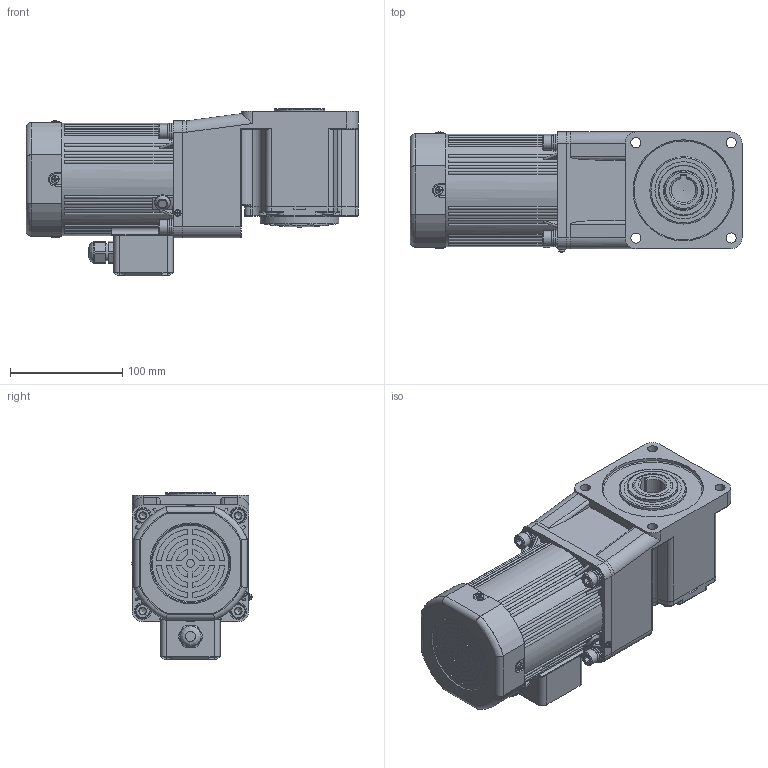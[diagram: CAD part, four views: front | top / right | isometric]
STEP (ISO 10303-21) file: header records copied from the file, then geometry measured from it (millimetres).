
FILE_DESCRIPTION(/* description */ (''),/* implementation_level */ '2;1');
FILE_NAME(/* name */ '100+直角中空-风叶-120-140W 新版常规接线盒.stp',/* time_stamp */ '2025-04-07T19:42:22+08:00',/* author */ (''),/* organization */ (''),/* preprocessor_version */ 'ST-DEVELOPER v18.102',/* originating_system */ 'SIEMENS PLM Software NX 2027',/* authorisation */ '');
FILE_SCHEMA (('AP203_CONFIGURATION_CONTROLLED_3D_DESIGN_OF_MECHANICAL_PARTS_AND_ASSEMBLIES_MIM_LF { 1 0 10303 403 2 1 2}'));
Products named in the file (1): 100+直角中空-风叶-120-140W 新版_
stp_objects
Bounding box: 295.5 x 106.83 x 149.5 mm (x, y, z)
Volume: 2846143.2 mm3; surface area: 410155.5 mm2
Topology: 26 solids, 26 shells, 1935 faces, 5022 edges, 3250 vertices
Faces by surface type: plane 838, cylinder 602, bspline 216, cone 130, torus 123, sphere 26
Full cylindrical faces by diameter (mm): 2.6 x2, 2.7 x1, 3 x17, 3.2 x2, 3.3 x2, 3.5 x6, 3.6 x4, 4 x4, 4.5 x4, 4.55 x2, 5.1 x2, 5.15 x2, 6 x10, 6.8 x12, 7 x2, 7.5 x2, 7.76 x4, 8.4 x4, 9 x14, 9.3 x1, 9.5 x4, 12 x1, 13 x4, 14 x8, 15 x7, 15.5 x2, 16 x1, 18 x1, 19 x3, 21 x1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
Entity records: 59653 total; most frequent: CARTESIAN_POINT 15229, ORIENTED_EDGE 9040, DIRECTION 8682, EDGE_CURVE 4520, AXIS2_PLACEMENT_3D 3416, VERTEX_POINT 3079, EDGE_LOOP 2458, ADVANCED_FACE 1935
